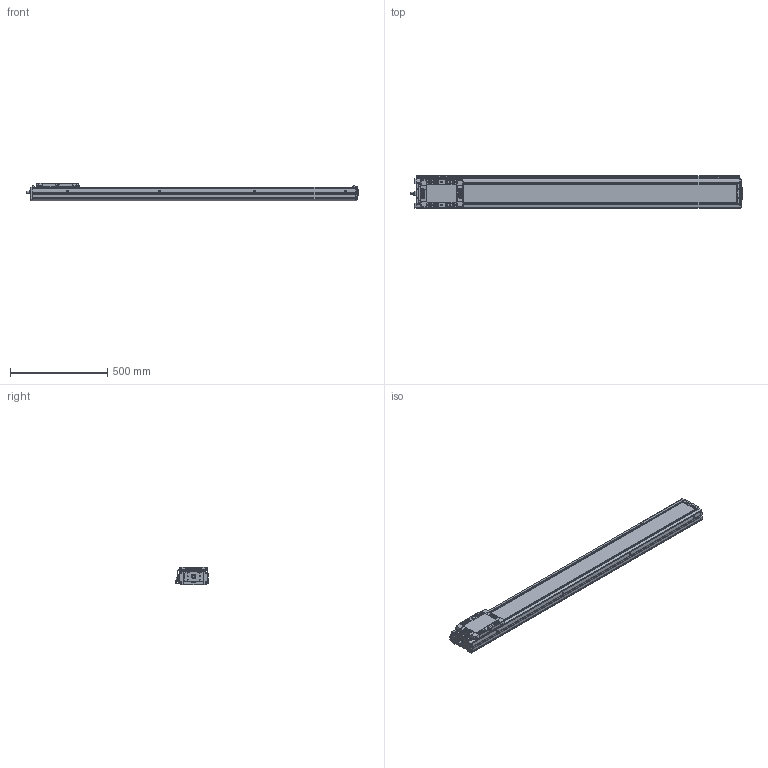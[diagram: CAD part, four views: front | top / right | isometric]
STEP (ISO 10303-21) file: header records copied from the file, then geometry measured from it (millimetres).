
FILE_DESCRIPTION(('STEP AP214'),'1');
FILE_NAME('Z:/Web/3D/SAN150/2013.04 (STP.)/SAN150ㅁㅁ-1400+3SL.stp','2013-05-07T08:31:09',(' '),(' '),'Spatial InterOp 3D',' ',' ');
FILE_SCHEMA(('automotive_design'));
Length unit declared in the file: millimetre
Products named in the file (57): M3.0 x 6.0; SRL-16x17-360L; SGD-SAN150; EE-SX674; SBK-SX674-352; 스크루 : Round - M3.0 x 6.0; BHCS M4.0 x 10.0; SLBL-SAN150; SLCV-SAN150; FHCS M4.0 x 8.0; SFX-SAN150; RRCV-SAN150; FRBL-SAN150; Spacer; RN15; FRCV-SAN150; Screw 20; BASE-SAN150-000L ; SUS COVER; 스크루 : Round - M5.0 x 6.0
Bounding box: 1708 x 166 x 90 mm (x, y, z)
Volume: 8810917.5 mm3; surface area: 1781340.5 mm2
Topology: 57 solids, 57 shells, 2796 faces, 7212 edges, 4617 vertices
Faces by surface type: plane 1406, cylinder 943, cone 338, sphere 76, bspline 21, torus 12
Entity records: 111479 total; most frequent: CARTESIAN_POINT 18372, DIRECTION 15234, ORIENTED_EDGE 14144, EDGE_CURVE 7072, AXIS2_PLACEMENT_3D 5458, VERTEX_POINT 4617, LINE 4318, VECTOR 4318
